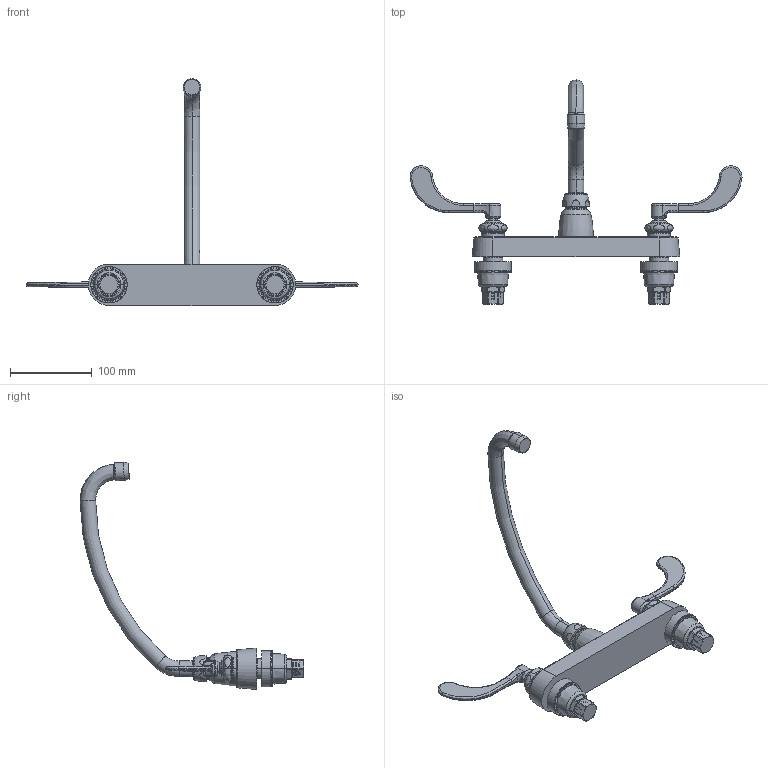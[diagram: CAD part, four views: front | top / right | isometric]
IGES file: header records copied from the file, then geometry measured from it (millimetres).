
Start section:  PTC IGES file: 1100-l9e35-317ab_REV032416.igs
Global section: file name: 1100-l9e35-317ab_REV032416.igs; native system: Creo Parametric by PTC Inc.; preprocessor: 2014500; author: dmisv; organization: Unknown; date: 20160324.143010; units: inch
Bounding box: 406.4 x 274.07 x 277.91 mm (x, y, z)
Surface area: 123679.2 mm2 (no closed solid volume)
Topology: 0 solids, 35 shells, 646 faces, 1870 edges, 1196 vertices
Faces by surface type: revolution 472, bspline 174
